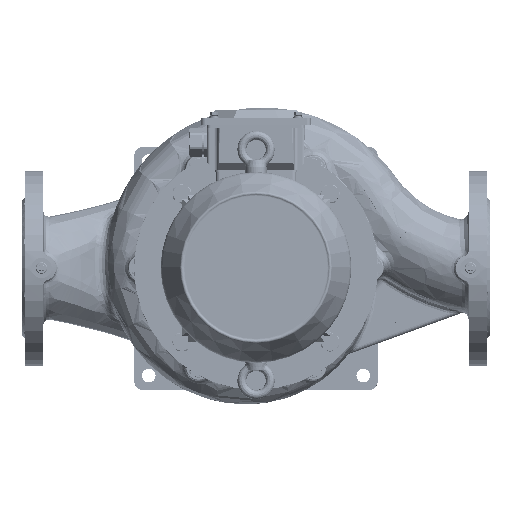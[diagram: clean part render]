
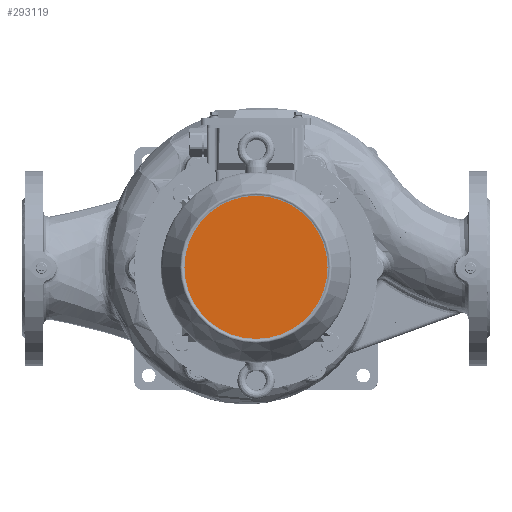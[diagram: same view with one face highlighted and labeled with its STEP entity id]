
A CAD part, top view. The second image highlights one B-rep face of the part: STEP entity #293119.
In plain terms, the highlighted planar face has unit normal (0, 0, 1) as drawn and (0, 1, 0) by its records, which use the part's own axes.
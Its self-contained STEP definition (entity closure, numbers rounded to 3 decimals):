
#264069=CARTESIAN_POINT('',(0.,62.61,
0.));
#264070=DIRECTION('',(0.,-1.,0.));
#264071=DIRECTION('',(0.,0.,1.));
#264072=AXIS2_PLACEMENT_3D('',#264069,#264070,#264071);
#264074=CARTESIAN_POINT('',(0.,62.61,
0.));
#264075=DIRECTION('',(0.,-1.,0.));
#264076=DIRECTION('',(0.,0.,-1.));
#264077=AXIS2_PLACEMENT_3D('',#264074,#264075,#264076);
#268520=CARTESIAN_POINT('',(0.,62.61,
-73.366));
#268521=VERTEX_POINT('',#268520);
#268522=CARTESIAN_POINT('',(0.,62.61,
73.366));
#268523=VERTEX_POINT('',#268522);
#293110=CARTESIAN_POINT('',(0.,62.61,
0.));
#293111=DIRECTION('',(0.,1.,0.));
#293112=DIRECTION('',(0.,0.,-1.));
#293113=AXIS2_PLACEMENT_3D('',#293110,#293111,#293112);
#293114=PLANE('',#293113);
#293115=ORIENTED_EDGE('',*,*,#293103,.T.);
#293116=ORIENTED_EDGE('',*,*,#293089,.T.);
#293117=EDGE_LOOP('',(#293115,#293116));
#293118=FACE_OUTER_BOUND('',#293117,.F.);
#293119=ADVANCED_FACE('',(#293118),#293114,.T.);
#264073=CIRCLE('',#264072,73.366);
#264078=CIRCLE('',#264077,73.366);
#293089=EDGE_CURVE('',#268521,#268523,#264078,.T.);
#293103=EDGE_CURVE('',#268523,#268521,#264073,.T.);
